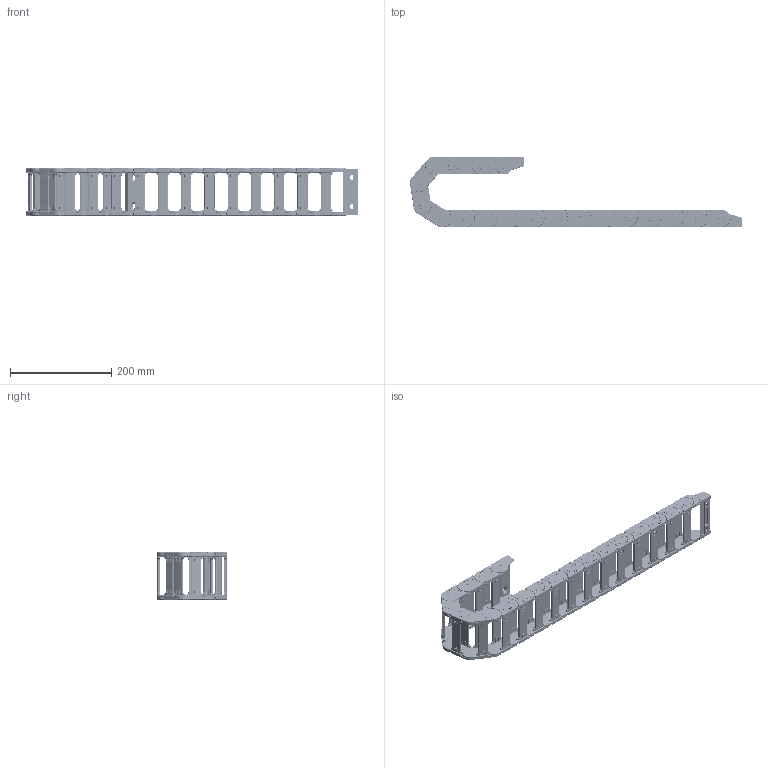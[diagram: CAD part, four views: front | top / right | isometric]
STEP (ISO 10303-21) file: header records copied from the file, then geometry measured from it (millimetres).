
FILE_DESCRIPTION (( 'STEP AP214' ), '1' );
FILE_NAME ('J25Q.2.77S-3D賦凳芞.STEP', '2019-01-09T03:27:07', ( 'Sky123.Org' ), ( 'Sky123.Org' ), 'SwSTEP 2.0', 'SolidWorks 2017', '' );
FILE_SCHEMA (( 'AUTOMOTIVE_DESIGN' ));
Length unit declared in the file: millimetre
Products named in the file (7): G25X77-XJT-WF; G25X77-XJT-NF; 5-G25X77-等誹1; G25X77-結え-3D; G25-R55翋极2-楷俋; G25-R55翋极1-楷俋; J25Q.2.77S-3D賦凳芞
Assembly tree (24 placements, depth 3):
  J25Q.2.77S-3D賦凳芞
    5-G25X77-等誹1  x18
      G25-R55翋极1-楷俋
      G25-R55翋极2-楷俋
      G25X77-結え-3D
    G25X77-XJT-NF
    G25X77-XJT-WF
Bounding box: 656.29 x 139.76 x 93.6 mm (x, y, z)
Volume: 768556.1 mm3; surface area: 439114.6 mm2
Topology: 74 solids, 74 shells, 16077 faces, 44099 edges, 28860 vertices
Faces by surface type: plane 9334, cylinder 3534, bspline 2856, torus 341, cone 12
Entity records: 33864 total; most frequent: CARTESIAN_POINT 10947, ORIENTED_EDGE 4360, DIRECTION 3906, EDGE_CURVE 2180, VERTEX_POINT 1405, VECTOR 1380, LINE 1380, AXIS2_PLACEMENT_3D 1263
